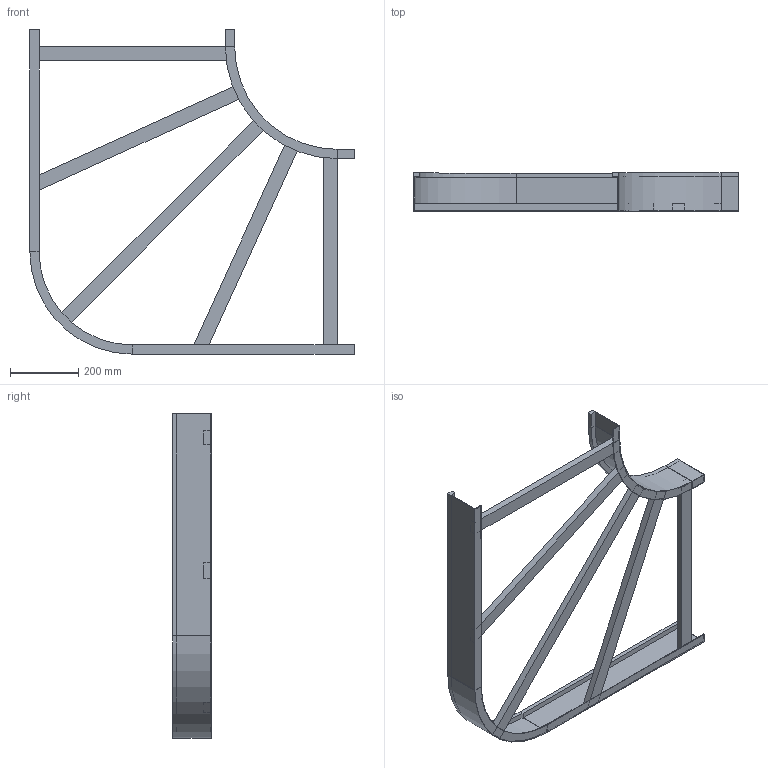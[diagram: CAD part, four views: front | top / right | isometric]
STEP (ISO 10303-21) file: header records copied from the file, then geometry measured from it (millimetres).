
FILE_DESCRIPTION (( 'STEP AP214' ), '1' );
FILE_NAME ('B2_10B3J600.step', '2025-02-21T15:25:21', ( '' ), ( '' ), 'SwSTEP 2.0', 'SolidWorks 2023', '' );
FILE_SCHEMA (( 'AUTOMOTIVE_DESIGN' ));
Length unit declared in the file: millimetre
Products named in the file (6): TRAVERSINO_700_SCANTONATO; B2_10B3J600; TRAVERSINO_L843; B2_LONGH.INTERNO 90°_H112.5_R300; B2_LONGH.ESTERNO 90°_H112.5_R300+600; TRAVERSINO_600
Assembly tree (7 placements, depth 2):
  B2_10B3J600
    B2_LONGH.INTERNO 90°_H112.5_R300
    B2_LONGH.ESTERNO 90°_H112.5_R300+600
    TRAVERSINO_600  x2
    TRAVERSINO_700_SCANTONATO  x2
    TRAVERSINO_L843
Bounding box: 950 x 112.5 x 950 mm (x, y, z)
Volume: 3852392.1 mm3; surface area: 1150705.1 mm2
Topology: 7 solids, 7 shells, 82 faces, 172 edges, 104 vertices
Faces by surface type: plane 74, cylinder 8
Entity records: 2015 total; most frequent: DIRECTION 324, CARTESIAN_POINT 316, ORIENTED_EDGE 296, EDGE_CURVE 148, VECTOR 132, LINE 132, AXIS2_PLACEMENT_3D 96, VERTEX_POINT 88
